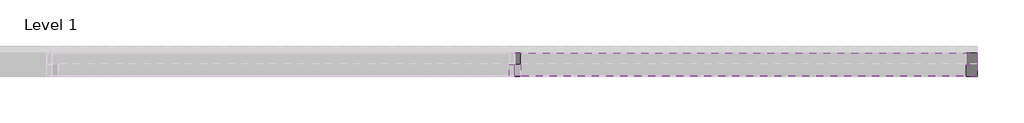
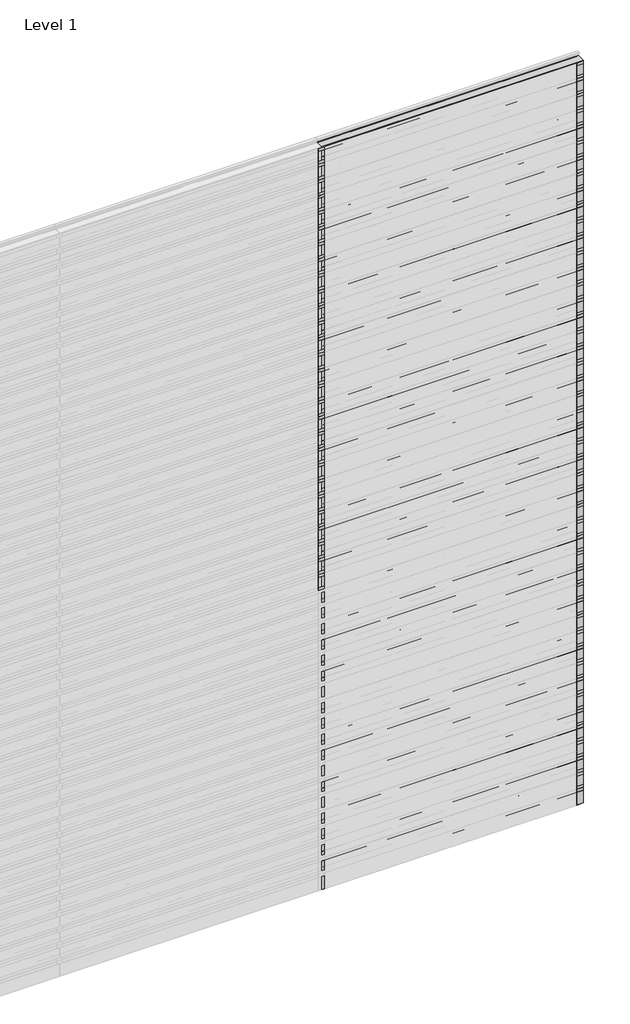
# One storey, part 5 of 5: 75 members, 48 plates.
"""IFC4 building model written with IfcOpenShell, lengths in millimetres."""

import ifcopenshell
import ifcopenshell.guid

model = None  # the IFC model being written
_history = None  # IfcOwnerHistory: only IFC2X3 demands one
_inside = {}  # id of a spatial element -> (the spatial element, [elements in it])
_under = {}  # id of a project, library or spatial element -> (it, [spatial elements below it])
_declared = {}  # id of a project -> (the project, [libraries it declares])
_typed = {}  # id of a type object -> (the type object, [elements of that type])
_made_of = {}  # id of a material, layer set ... -> (it, [elements and type objects made of it])


def new_model(schema):
    """Start an empty IFC model of exactly this schema.

    Asked for "IFC4X3", IfcOpenShell would pick the latest addendum, in which some entities
    have other attributes; the version numbers below select the first issue.
    IFC2X3 requires an IfcOwnerHistory on every rooted entity: one is made here for all.
    """
    global model, _history
    if schema == "IFC4X3":
        model = ifcopenshell.file(schema_version=(4, 3, 0, 0))
    else:
        model = ifcopenshell.file(schema=schema)
    _inside.clear()
    _under.clear()
    _declared.clear()
    _typed.clear()
    _made_of.clear()
    _history = None
    if model.schema == "IFC2X3":
        org = make("IfcOrganization", Name="unknown")
        user = make(
            "IfcPersonAndOrganization",
            ThePerson=make("IfcPerson", FamilyName="unknown"),
            TheOrganization=org,
        )
        app = make(
            "IfcApplication",
            ApplicationDeveloper=org,
            Version="unknown",
            ApplicationFullName="unknown",
            ApplicationIdentifier="unknown",
        )
        _history = make(
            "IfcOwnerHistory",
            OwningUser=user,
            OwningApplication=app,
            ChangeAction="ADDED",
            CreationDate=0,
        )
    return model


def make(cls, **values):
    """One entity of the class cls with the attributes given. An attribute that is None is left unset."""
    return model.create_entity(
        cls, **{name: value for name, value in values.items() if value is not None}
    )


def rooted(cls, **values):
    """An entity with a GlobalId (a new one), such as an element, a storey or a relation."""
    return make(cls, GlobalId=ifcopenshell.guid.new(), OwnerHistory=_history, **values)


def si_unit(unit_type, name, prefix=None):
    """IfcSIUnit, for example si_unit("LENGTHUNIT", "METRE", prefix="MILLI")."""
    return make("IfcSIUnit", UnitType=unit_type, Prefix=prefix, Name=name)


def assignment(units):
    """IfcUnitAssignment: the units of a project."""
    return None if units is None else make("IfcUnitAssignment", Units=units)


def point(xyz):
    """IfcCartesianPoint."""
    return None if xyz is None else make("IfcCartesianPoint", Coordinates=xyz)


def direction(xyz):
    """IfcDirection."""
    return None if xyz is None else make("IfcDirection", DirectionRatios=xyz)


def frame(location, z_axis=None, x_axis=None):
    """IfcAxis2Placement3D, a coordinate frame: its origin and axes. An axis left out is left unset."""
    return make(
        "IfcAxis2Placement3D",
        Location=point(location),
        Axis=direction(z_axis),
        RefDirection=direction(x_axis),
    )


def origin():
    """The frame at (0, 0, 0) with its axes left unset."""
    return frame((0.0, 0.0, 0.0))


def origin_with_axes():
    """The frame at (0, 0, 0) with the z axis (0, 0, 1) and the x axis (1, 0, 0) written out."""
    return frame((0.0, 0.0, 0.0), z_axis=(0.0, 0.0, 1.0), x_axis=(1.0, 0.0, 0.0))


def place(relative_to, where):
    """IfcLocalPlacement: puts the frame where relative to a parent placement (None: the world)."""
    return make(
        "IfcLocalPlacement", PlacementRelTo=relative_to, RelativePlacement=where
    )


def context(
    kind, dimensions, precision=None, world=None, true_north=None, identifier=None
):
    """IfcGeometricRepresentationContext, for example the 3D "Model" context."""
    return make(
        "IfcGeometricRepresentationContext",
        ContextIdentifier=identifier,
        ContextType=kind,
        CoordinateSpaceDimension=dimensions,
        Precision=precision,
        WorldCoordinateSystem=world,
        TrueNorth=true_north,
    )


def project(units=None, contexts=None):
    """IfcProject with its units and contexts."""
    return rooted(
        "IfcProject",
        Name="project",
        RepresentationContexts=contexts,
        UnitsInContext=assignment(units),
    )


def spatial(cls, under=None, at=None, **own):
    """A site, building, storey or space (cls), placed at a placement, below another one or the project."""
    s = rooted(cls, ObjectPlacement=at, **own)
    if under is not None:
        _under.setdefault(under.id(), (under, []))[1].append(s)
    return s


def polyline(points):
    """IfcPolyline through the points."""
    return make("IfcPolyline", Points=[point(p) for p in points])


def outline(outer, holes=None, kind="AREA"):
    """IfcArbitraryClosedProfileDef: a profile drawn as a closed curve; with holes, ...WithVoids."""
    if holes is None:
        return make("IfcArbitraryClosedProfileDef", ProfileType=kind, OuterCurve=outer)
    return make(
        "IfcArbitraryProfileDefWithVoids",
        ProfileType=kind,
        OuterCurve=outer,
        InnerCurves=holes,
    )


def extrude(swept, where, along, depth):
    """IfcExtrudedAreaSolid: the profile swept, set in the frame where, extruded along a direction by depth."""
    return make(
        "IfcExtrudedAreaSolid",
        SweptArea=swept,
        Position=where,
        ExtrudedDirection=direction(along),
        Depth=depth,
    )


def shape(context_of_items, identifier, shape_type, items):
    """IfcShapeRepresentation: the items that make up one representation, for example the "Body"."""
    return make(
        "IfcShapeRepresentation",
        ContextOfItems=context_of_items,
        RepresentationIdentifier=identifier,
        RepresentationType=shape_type,
        Items=items,
    )


def source(mapping_origin, context_of_items, identifier, shape_type, items):
    """IfcRepresentationMap: a shape defined once, which mapped items show again and again."""
    return make(
        "IfcRepresentationMap",
        MappingOrigin=mapping_origin,
        MappedRepresentation=shape(context_of_items, identifier, shape_type, items),
    )


def transform(
    local_origin,
    x_axis=None,
    y_axis=None,
    z_axis=None,
    scale=None,
    scale2=None,
    scale3=None,
    uniform=True,
):
    """IfcCartesianTransformationOperator3D, or its non-uniform kind. x_axis, y_axis, z_axis: its Axis1, 2, 3."""
    if uniform:
        return make(
            "IfcCartesianTransformationOperator3D",
            Axis1=direction(x_axis),
            Axis2=direction(y_axis),
            LocalOrigin=point(local_origin),
            Scale=scale,
            Axis3=direction(z_axis),
        )
    return make(
        "IfcCartesianTransformationOperator3DnonUniform",
        Axis1=direction(x_axis),
        Axis2=direction(y_axis),
        LocalOrigin=point(local_origin),
        Scale=scale,
        Axis3=direction(z_axis),
        Scale2=scale2,
        Scale3=scale3,
    )


def mapped(mapping_source, mapping_target):
    """IfcMappedItem: shows the shape of a source again, moved by a transform."""
    return make(
        "IfcMappedItem", MappingSource=mapping_source, MappingTarget=mapping_target
    )


def made_of(thing, what):
    """Note that an element or type object is made of a material, layer set ...; save() writes the relation."""
    if what is not None:
        _made_of.setdefault(what.id(), (what, []))[1].append(thing)
    return thing


def element(
    cls,
    number,
    at=None,
    inside=None,
    cuts=None,
    type_object=None,
    material=None,
    context=None,
    identifier="Body",
    shape_type=None,
    held_by="IfcProductDefinitionShape",
    body=None,
    shapes=None,
    **own,
):
    """One element of the class cls, such as IfcWall. Its Tag is "e" and its number.

    at: its placement. inside: the storey or other place that contains it. cuts: it is an
    opening in that element (IfcRelVoidsElement). A single representation is given by context,
    identifier, shape_type and body (its items); several are given by shapes. held_by: the class
    of the entity that holds the representations. save() writes the other relations.
    """
    e = rooted(cls, Tag="e%d" % number, ObjectPlacement=at, **own)
    if body is not None:
        shapes = [shape(context, identifier, shape_type, body)]
    if shapes is not None:
        e.Representation = make(held_by, Representations=shapes)
    if inside is not None:
        _inside.setdefault(inside.id(), (inside, []))[1].append(e)
    if cuts is not None:
        rooted(
            "IfcRelVoidsElement", RelatingBuildingElement=cuts, RelatedOpeningElement=e
        )
    if type_object is not None:
        _typed.setdefault(type_object.id(), (type_object, []))[1].append(e)
    return made_of(e, material)


def aggregate(whole, parts):
    """IfcRelAggregates: a whole, such as a stair, and the parts it consists of."""
    return rooted("IfcRelAggregates", RelatingObject=whole, RelatedObjects=parts)


def save(model, path):
    """Write the relations noted so far, then the file.

    IfcRelAggregates (storeys below a building ...), IfcRelContainedInSpatialStructure (elements
    in a storey), IfcRelDefinesByType, IfcRelAssociatesMaterial and IfcRelDeclares: one each for
    every whole, place, type object, material and project.
    """
    for whole, parts in _under.values():
        aggregate(whole, parts)
    for where, things in _inside.values():
        rooted(
            "IfcRelContainedInSpatialStructure",
            RelatedElements=things,
            RelatingStructure=where,
        )
    for kind, things in _typed.values():
        rooted("IfcRelDefinesByType", RelatedObjects=things, RelatingType=kind)
    for what, things in _made_of.values():
        rooted("IfcRelAssociatesMaterial", RelatedObjects=things, RelatingMaterial=what)
    for by, libraries in _declared.values():
        rooted("IfcRelDeclares", RelatingContext=by, RelatedDefinitions=libraries)
    model.write(path)


def rectangular_mullion_172e3795(model_context):
    return source(origin(), model_context, "Body", "SweptSolid", [
        extrude(outline(polyline([(25.0, 1.0), (25.0, -49.0), (-25.0, -49.0), (-25.0, 1.0), (25.0, 1.0)])), frame((0.0, 0.0, -127.5), z_axis=(0.0, 0.0, 1.0), x_axis=(1.0, 0.0, 0.0)), (0.0, 0.0, 1.0), 127.5),
    ])


def rectangular_mullion_5ead61f5(model_context):
    return source(origin(), model_context, "Body", "SweptSolid", [
        extrude(outline(polyline([(-50.0, 1.0), (0.0, 1.0), (0.0, -49.0), (-50.0, -49.0), (-50.0, 1.0)])), frame((0.0, 0.0, -127.5), z_axis=(0.0, 0.0, 1.0), x_axis=(1.0, 0.0, 0.0)), (0.0, 0.0, 1.0), 127.5),
    ])


def empty_system_panel_empty_ea596e22(model_context):
    return source(origin(), model_context, "Body", "SweptSolid", [
        extrude(outline(polyline([(1000.0, -50.0), (-1000.0, -50.0), (-1000.0, 50.0), (1000.0, 50.0), (1000.0, -50.0)])), origin_with_axes(), (0.0, 0.0, 1.0), 103.4583694),
    ])


def empty_system_panel_empty_a5cbaad0(model_context):
    return source(origin(), model_context, "Body", "SweptSolid", [
        extrude(outline(polyline([(1000.0, -50.0), (-1000.0, -50.0), (-1000.0, 50.0), (1000.0, 50.0), (1000.0, -50.0)])), origin_with_axes(), (0.0, 0.0, 1.0), 79.4167389),
    ])


def empty_system_panel_empty_c620d78e(model_context):
    return source(origin(), model_context, "Body", "SweptSolid", [
        extrude(outline(polyline([(1000.0, -50.0), (-1000.0, -50.0), (-1000.0, 50.0), (1000.0, 50.0), (1000.0, -50.0)])), origin_with_axes(), (0.0, 0.0, 1.0), 7.5),
    ])


model = new_model("IFC4")

# Units and contexts
model_context = context("Model", 3, world=origin())
ifc_project = project(units=[si_unit("LENGTHUNIT", "METRE", prefix="MILLI")], contexts=[model_context])

# Site, building, storey
site = spatial("IfcSite", under=ifc_project)
building = spatial("IfcBuilding", under=site)
storey = spatial("IfcBuildingStorey", under=building, Name="Level 1", Elevation=0.0)

# Members
placement = place(None, origin())
rectangular_mullion_shape = rectangular_mullion_172e3795(model_context)
element("IfcMember", 1, ObjectType="Rectangular Mullion : RSen_21_CWM_support profile 50x50_gen_duco projects", at=placement, inside=storey, context=model_context, shape_type="MappedRepresentation", body=[
    mapped(rectangular_mullion_shape, transform((4000.0, 3000.0, 2422.5), x_axis=(-1.0, 0.0, 0.0), y_axis=(0.0, 1.0, 0.0), z_axis=(0.0, 0.0, -1.0))),
])
element("IfcMember", 2, ObjectType="Rectangular Mullion : RSen_21_CWM_support profile 50x50_gen_duco projects", at=placement, inside=storey, context=model_context, shape_type="MappedRepresentation", body=[
    mapped(rectangular_mullion_shape, transform((4000.0, 3000.0, 2550.0), x_axis=(-1.0, 0.0, 0.0), y_axis=(0.0, 1.0, 0.0), z_axis=(0.0, 0.0, -1.0))),
])
element("IfcMember", 3, ObjectType="Rectangular Mullion : RSen_21_CWM_support profile 50x50_gen_duco projects", at=placement, inside=storey, context=model_context, shape_type="MappedRepresentation", body=[
    mapped(rectangular_mullion_shape, transform((4000.0, 3000.0, 2677.5), x_axis=(-1.0, 0.0, 0.0), y_axis=(0.0, 1.0, 0.0), z_axis=(0.0, 0.0, -1.0))),
])
element("IfcMember", 4, ObjectType="Rectangular Mullion : RSen_21_CWM_support profile 50x50_gen_duco projects", at=placement, inside=storey, context=model_context, shape_type="MappedRepresentation", body=[
    mapped(rectangular_mullion_shape, transform((4000.0, 3000.0, 2805.0), x_axis=(-1.0, 0.0, 0.0), y_axis=(0.0, 1.0, 0.0), z_axis=(0.0, 0.0, -1.0))),
])
element("IfcMember", 5, ObjectType="Rectangular Mullion : RSen_21_CWM_support profile 50x50_gen_duco projects", at=placement, inside=storey, context=model_context, shape_type="MappedRepresentation", body=[
    mapped(rectangular_mullion_shape, transform((4000.0, 3000.0, 2932.5), x_axis=(-1.0, 0.0, 0.0), y_axis=(0.0, 1.0, 0.0), z_axis=(0.0, 0.0, -1.0))),
])
element("IfcMember", 6, ObjectType="Rectangular Mullion : RSen_21_CWM_support profile 50x50_gen_duco projects", at=placement, inside=storey, context=model_context, shape_type="MappedRepresentation", body=[
    mapped(rectangular_mullion_shape, transform((4000.0, 3000.0, 3060.0), x_axis=(-1.0, 0.0, 0.0), y_axis=(0.0, 1.0, 0.0), z_axis=(0.0, 0.0, -1.0))),
])
element("IfcMember", 7, ObjectType="Rectangular Mullion : RSen_21_CWM_support profile 50x50_gen_duco projects", at=placement, inside=storey, context=model_context, shape_type="MappedRepresentation", body=[
    mapped(rectangular_mullion_shape, transform((4000.0, 3000.0, 3187.5), x_axis=(-1.0, 0.0, 0.0), y_axis=(0.0, 1.0, 0.0), z_axis=(0.0, 0.0, -1.0))),
])
element("IfcMember", 8, ObjectType="Rectangular Mullion : RSen_21_CWM_support profile 50x50_gen_duco projects", at=placement, inside=storey, context=model_context, shape_type="MappedRepresentation", body=[
    mapped(rectangular_mullion_shape, transform((4000.0, 3000.0, 3315.0), x_axis=(-1.0, 0.0, 0.0), y_axis=(0.0, 1.0, 0.0), z_axis=(0.0, 0.0, -1.0))),
])
element("IfcMember", 9, ObjectType="Rectangular Mullion : RSen_21_CWM_support profile 50x50_gen_duco projects", at=placement, inside=storey, context=model_context, shape_type="MappedRepresentation", body=[
    mapped(rectangular_mullion_shape, transform((4000.0, 3000.0, 3442.5), x_axis=(-1.0, 0.0, 0.0), y_axis=(0.0, 1.0, 0.0), z_axis=(0.0, 0.0, -1.0))),
])
element("IfcMember", 10, ObjectType="Rectangular Mullion : RSen_21_CWM_support profile 50x50_gen_duco projects", at=placement, inside=storey, context=model_context, shape_type="MappedRepresentation", body=[
    mapped(rectangular_mullion_shape, transform((4000.0, 3000.0, 3570.0), x_axis=(-1.0, 0.0, 0.0), y_axis=(0.0, 1.0, 0.0), z_axis=(0.0, 0.0, -1.0))),
])
element("IfcMember", 11, ObjectType="Rectangular Mullion : RSen_21_CWM_support profile 50x50_gen_duco projects", at=placement, inside=storey, context=model_context, shape_type="MappedRepresentation", body=[
    mapped(rectangular_mullion_shape, transform((4000.0, 3000.0, 3697.5), x_axis=(-1.0, 0.0, 0.0), y_axis=(0.0, 1.0, 0.0), z_axis=(0.0, 0.0, -1.0))),
])
element("IfcMember", 12, ObjectType="Rectangular Mullion : RSen_21_CWM_support profile 50x50_gen_duco projects", at=placement, inside=storey, context=model_context, shape_type="MappedRepresentation", body=[
    mapped(rectangular_mullion_shape, transform((4000.0, 3000.0, 3825.0), x_axis=(-1.0, 0.0, 0.0), y_axis=(0.0, 1.0, 0.0), z_axis=(0.0, 0.0, -1.0))),
])
element("IfcMember", 13, ObjectType="Rectangular Mullion : RSen_21_CWM_support profile 50x50_gen_duco projects", at=placement, inside=storey, context=model_context, shape_type="MappedRepresentation", body=[
    mapped(rectangular_mullion_shape, transform((4000.0, 3000.0, 3952.5), x_axis=(-1.0, 0.0, 0.0), y_axis=(0.0, 1.0, 0.0), z_axis=(0.0, 0.0, -1.0))),
])
element("IfcMember", 14, ObjectType="Rectangular Mullion : RSen_21_CWM_support profile 50x50_gen_duco projects", at=placement, inside=storey, context=model_context, shape_type="MappedRepresentation", body=[
    mapped(rectangular_mullion_shape, transform((4000.0, 3000.0, 4080.0), x_axis=(-1.0, 0.0, 0.0), y_axis=(0.0, 1.0, 0.0), z_axis=(0.0, 0.0, -1.0))),
])
element("IfcMember", 15, ObjectType="Rectangular Mullion : RSen_21_CWM_support profile 50x50_gen_duco projects", at=placement, inside=storey, context=model_context, shape_type="MappedRepresentation", body=[
    mapped(rectangular_mullion_shape, transform((4000.0, 3000.0, 4207.5), x_axis=(-1.0, 0.0, 0.0), y_axis=(0.0, 1.0, 0.0), z_axis=(0.0, 0.0, -1.0))),
])
element("IfcMember", 16, ObjectType="Rectangular Mullion : RSen_21_CWM_support profile 50x50_gen_duco projects", at=placement, inside=storey, context=model_context, shape_type="MappedRepresentation", body=[
    mapped(rectangular_mullion_shape, transform((4000.0, 3000.0, 4335.0), x_axis=(-1.0, 0.0, 0.0), y_axis=(0.0, 1.0, 0.0), z_axis=(0.0, 0.0, -1.0))),
])
element("IfcMember", 17, ObjectType="Rectangular Mullion : RSen_21_CWM_support profile 50x50_gen_duco projects", at=placement, inside=storey, context=model_context, shape_type="MappedRepresentation", body=[
    mapped(rectangular_mullion_shape, transform((4000.0, 3000.0, 4462.5), x_axis=(-1.0, 0.0, 0.0), y_axis=(0.0, 1.0, 0.0), z_axis=(0.0, 0.0, -1.0))),
])
element("IfcMember", 18, ObjectType="Rectangular Mullion : RSen_21_CWM_support profile 50x50_gen_duco projects", at=placement, inside=storey, context=model_context, shape_type="MappedRepresentation", body=[
    mapped(rectangular_mullion_shape, transform((4000.0, 3000.0, 4590.0), x_axis=(-1.0, 0.0, 0.0), y_axis=(0.0, 1.0, 0.0), z_axis=(0.0, 0.0, -1.0))),
])
element("IfcMember", 19, ObjectType="Rectangular Mullion : RSen_21_CWM_support profile 50x50_gen_duco projects", at=placement, inside=storey, context=model_context, shape_type="MappedRepresentation", body=[
    mapped(rectangular_mullion_shape, transform((4000.0, 3000.0, 4717.5), x_axis=(-1.0, 0.0, 0.0), y_axis=(0.0, 1.0, 0.0), z_axis=(0.0, 0.0, -1.0))),
])
element("IfcMember", 20, ObjectType="Rectangular Mullion : RSen_21_CWM_support profile 50x50_gen_duco projects", at=placement, inside=storey, context=model_context, shape_type="MappedRepresentation", body=[
    mapped(rectangular_mullion_shape, transform((4000.0, 3000.0, 4845.0), x_axis=(-1.0, 0.0, 0.0), y_axis=(0.0, 1.0, 0.0), z_axis=(0.0, 0.0, -1.0))),
])
element("IfcMember", 21, ObjectType="Rectangular Mullion : RSen_21_CWM_support profile 50x50_gen_duco projects", at=placement, inside=storey, context=model_context, shape_type="MappedRepresentation", body=[
    mapped(rectangular_mullion_shape, transform((4000.0, 3000.0, 4972.5), x_axis=(-1.0, 0.0, 0.0), y_axis=(0.0, 1.0, 0.0), z_axis=(0.0, 0.0, -1.0))),
])
element("IfcMember", 22, ObjectType="Rectangular Mullion : RSen_21_CWM_support profile 50x50_gen_duco projects", at=placement, inside=storey, context=model_context, shape_type="MappedRepresentation", body=[
    mapped(rectangular_mullion_shape, transform((4000.0, 3000.0, 5100.0), x_axis=(-1.0, 0.0, 0.0), y_axis=(0.0, 1.0, 0.0), z_axis=(0.0, 0.0, -1.0))),
])
element("IfcMember", 23, ObjectType="Rectangular Mullion : RSen_21_CWM_support profile 50x50_gen_duco projects", at=placement, inside=storey, context=model_context, shape_type="MappedRepresentation", body=[
    mapped(rectangular_mullion_shape, transform((4000.0, 3000.0, 5227.5), x_axis=(-1.0, 0.0, 0.0), y_axis=(0.0, 1.0, 0.0), z_axis=(0.0, 0.0, -1.0))),
])
element("IfcMember", 24, ObjectType="Rectangular Mullion : RSen_21_CWM_support profile 50x50_gen_duco projects", at=placement, inside=storey, context=model_context, shape_type="MappedRepresentation", body=[
    mapped(rectangular_mullion_shape, transform((4000.0, 3000.0, 5355.0), x_axis=(-1.0, 0.0, 0.0), y_axis=(0.0, 1.0, 0.0), z_axis=(0.0, 0.0, -1.0))),
])
element("IfcMember", 25, ObjectType="Rectangular Mullion : RSen_21_CWM_support profile 50x50_gen_duco projects", at=placement, inside=storey, context=model_context, shape_type="MappedRepresentation", body=[
    mapped(rectangular_mullion_shape, transform((4000.0, 3000.0, 5482.5), x_axis=(-1.0, 0.0, 0.0), y_axis=(0.0, 1.0, 0.0), z_axis=(0.0, 0.0, -1.0))),
])
element("IfcMember", 26, ObjectType="Rectangular Mullion : RSen_21_CWM_support profile 50x50_gen_duco projects", at=placement, inside=storey, context=model_context, shape_type="MappedRepresentation", body=[
    mapped(rectangular_mullion_shape, transform((4000.0, 3000.0, 5610.0), x_axis=(-1.0, 0.0, 0.0), y_axis=(0.0, 1.0, 0.0), z_axis=(0.0, 0.0, -1.0))),
])
element("IfcMember", 27, ObjectType="Rectangular Mullion : RSen_21_CWM_support profile 50x50_gen_duco projects", at=placement, inside=storey, context=model_context, shape_type="MappedRepresentation", body=[
    mapped(rectangular_mullion_shape, transform((4000.0, 3000.0, 5737.5), x_axis=(-1.0, 0.0, 0.0), y_axis=(0.0, 1.0, 0.0), z_axis=(0.0, 0.0, -1.0))),
])
element("IfcMember", 28, ObjectType="Rectangular Mullion : RSen_21_CWM_support profile 50x50_gen_duco projects", at=placement, inside=storey, context=model_context, shape_type="MappedRepresentation", body=[
    mapped(rectangular_mullion_shape, transform((4000.0, 3000.0, 5865.0), x_axis=(-1.0, 0.0, 0.0), y_axis=(0.0, 1.0, 0.0), z_axis=(0.0, 0.0, -1.0))),
])
rectangular_mullion_2_shape = rectangular_mullion_5ead61f5(model_context)
element("IfcMember", 29, ObjectType="Rectangular Mullion : RSen_21_CWM_support profile 50x50 - right_gen_duco projects", at=placement, inside=storey, context=model_context, shape_type="MappedRepresentation", body=[
    mapped(rectangular_mullion_2_shape, transform((6000.0, 3000.0, 127.5), x_axis=(1.0, 0.0, 0.0), y_axis=(0.0, 1.0, 0.0), z_axis=(0.0, 0.0, 1.0))),
])
element("IfcMember", 30, ObjectType="Rectangular Mullion : RSen_21_CWM_support profile 50x50 - right_gen_duco projects", at=placement, inside=storey, context=model_context, shape_type="MappedRepresentation", body=[
    mapped(rectangular_mullion_2_shape, transform((6000.0, 3000.0, 255.0), x_axis=(1.0, 0.0, 0.0), y_axis=(0.0, 1.0, 0.0), z_axis=(0.0, 0.0, 1.0))),
])
element("IfcMember", 31, ObjectType="Rectangular Mullion : RSen_21_CWM_support profile 50x50 - right_gen_duco projects", at=placement, inside=storey, context=model_context, shape_type="MappedRepresentation", body=[
    mapped(rectangular_mullion_2_shape, transform((6000.0, 3000.0, 382.5), x_axis=(1.0, 0.0, 0.0), y_axis=(0.0, 1.0, 0.0), z_axis=(0.0, 0.0, 1.0))),
])
element("IfcMember", 32, ObjectType="Rectangular Mullion : RSen_21_CWM_support profile 50x50 - right_gen_duco projects", at=placement, inside=storey, context=model_context, shape_type="MappedRepresentation", body=[
    mapped(rectangular_mullion_2_shape, transform((6000.0, 3000.0, 510.0), x_axis=(1.0, 0.0, 0.0), y_axis=(0.0, 1.0, 0.0), z_axis=(0.0, 0.0, 1.0))),
])
element("IfcMember", 33, ObjectType="Rectangular Mullion : RSen_21_CWM_support profile 50x50 - right_gen_duco projects", at=placement, inside=storey, context=model_context, shape_type="MappedRepresentation", body=[
    mapped(rectangular_mullion_2_shape, transform((6000.0, 3000.0, 637.5), x_axis=(1.0, 0.0, 0.0), y_axis=(0.0, 1.0, 0.0), z_axis=(0.0, 0.0, 1.0))),
])
element("IfcMember", 34, ObjectType="Rectangular Mullion : RSen_21_CWM_support profile 50x50 - right_gen_duco projects", at=placement, inside=storey, context=model_context, shape_type="MappedRepresentation", body=[
    mapped(rectangular_mullion_2_shape, transform((6000.0, 3000.0, 765.0), x_axis=(1.0, 0.0, 0.0), y_axis=(0.0, 1.0, 0.0), z_axis=(0.0, 0.0, 1.0))),
])
element("IfcMember", 35, ObjectType="Rectangular Mullion : RSen_21_CWM_support profile 50x50 - right_gen_duco projects", at=placement, inside=storey, context=model_context, shape_type="MappedRepresentation", body=[
    mapped(rectangular_mullion_2_shape, transform((6000.0, 3000.0, 892.5), x_axis=(1.0, 0.0, 0.0), y_axis=(0.0, 1.0, 0.0), z_axis=(0.0, 0.0, 1.0))),
])
element("IfcMember", 36, ObjectType="Rectangular Mullion : RSen_21_CWM_support profile 50x50 - right_gen_duco projects", at=placement, inside=storey, context=model_context, shape_type="MappedRepresentation", body=[
    mapped(rectangular_mullion_2_shape, transform((6000.0, 3000.0, 1020.0), x_axis=(1.0, 0.0, 0.0), y_axis=(0.0, 1.0, 0.0), z_axis=(0.0, 0.0, 1.0))),
])
element("IfcMember", 37, ObjectType="Rectangular Mullion : RSen_21_CWM_support profile 50x50 - right_gen_duco projects", at=placement, inside=storey, context=model_context, shape_type="MappedRepresentation", body=[
    mapped(rectangular_mullion_2_shape, transform((6000.0, 3000.0, 1147.5), x_axis=(1.0, 0.0, 0.0), y_axis=(0.0, 1.0, 0.0), z_axis=(0.0, 0.0, 1.0))),
])
element("IfcMember", 38, ObjectType="Rectangular Mullion : RSen_21_CWM_support profile 50x50 - right_gen_duco projects", at=placement, inside=storey, context=model_context, shape_type="MappedRepresentation", body=[
    mapped(rectangular_mullion_2_shape, transform((6000.0, 3000.0, 1275.0), x_axis=(1.0, 0.0, 0.0), y_axis=(0.0, 1.0, 0.0), z_axis=(0.0, 0.0, 1.0))),
])
element("IfcMember", 39, ObjectType="Rectangular Mullion : RSen_21_CWM_support profile 50x50 - right_gen_duco projects", at=placement, inside=storey, context=model_context, shape_type="MappedRepresentation", body=[
    mapped(rectangular_mullion_2_shape, transform((6000.0, 3000.0, 1402.5), x_axis=(1.0, 0.0, 0.0), y_axis=(0.0, 1.0, 0.0), z_axis=(0.0, 0.0, 1.0))),
])
element("IfcMember", 40, ObjectType="Rectangular Mullion : RSen_21_CWM_support profile 50x50 - right_gen_duco projects", at=placement, inside=storey, context=model_context, shape_type="MappedRepresentation", body=[
    mapped(rectangular_mullion_2_shape, transform((6000.0, 3000.0, 1530.0), x_axis=(1.0, 0.0, 0.0), y_axis=(0.0, 1.0, 0.0), z_axis=(0.0, 0.0, 1.0))),
])
element("IfcMember", 41, ObjectType="Rectangular Mullion : RSen_21_CWM_support profile 50x50 - right_gen_duco projects", at=placement, inside=storey, context=model_context, shape_type="MappedRepresentation", body=[
    mapped(rectangular_mullion_2_shape, transform((6000.0, 3000.0, 1657.5), x_axis=(1.0, 0.0, 0.0), y_axis=(0.0, 1.0, 0.0), z_axis=(0.0, 0.0, 1.0))),
])
element("IfcMember", 42, ObjectType="Rectangular Mullion : RSen_21_CWM_support profile 50x50 - right_gen_duco projects", at=placement, inside=storey, context=model_context, shape_type="MappedRepresentation", body=[
    mapped(rectangular_mullion_2_shape, transform((6000.0, 3000.0, 1785.0), x_axis=(1.0, 0.0, 0.0), y_axis=(0.0, 1.0, 0.0), z_axis=(0.0, 0.0, 1.0))),
])
element("IfcMember", 43, ObjectType="Rectangular Mullion : RSen_21_CWM_support profile 50x50 - right_gen_duco projects", at=placement, inside=storey, context=model_context, shape_type="MappedRepresentation", body=[
    mapped(rectangular_mullion_2_shape, transform((6000.0, 3000.0, 1912.5), x_axis=(1.0, 0.0, 0.0), y_axis=(0.0, 1.0, 0.0), z_axis=(0.0, 0.0, 1.0))),
])
element("IfcMember", 44, ObjectType="Rectangular Mullion : RSen_21_CWM_support profile 50x50 - right_gen_duco projects", at=placement, inside=storey, context=model_context, shape_type="MappedRepresentation", body=[
    mapped(rectangular_mullion_2_shape, transform((6000.0, 3000.0, 2040.0), x_axis=(1.0, 0.0, 0.0), y_axis=(0.0, 1.0, 0.0), z_axis=(0.0, 0.0, 1.0))),
])
element("IfcMember", 45, ObjectType="Rectangular Mullion : RSen_21_CWM_support profile 50x50 - right_gen_duco projects", at=placement, inside=storey, context=model_context, shape_type="MappedRepresentation", body=[
    mapped(rectangular_mullion_2_shape, transform((6000.0, 3000.0, 2167.5), x_axis=(1.0, 0.0, 0.0), y_axis=(0.0, 1.0, 0.0), z_axis=(0.0, 0.0, 1.0))),
])
element("IfcMember", 46, ObjectType="Rectangular Mullion : RSen_21_CWM_support profile 50x50 - right_gen_duco projects", at=placement, inside=storey, context=model_context, shape_type="MappedRepresentation", body=[
    mapped(rectangular_mullion_2_shape, transform((6000.0, 3000.0, 2295.0), x_axis=(1.0, 0.0, 0.0), y_axis=(0.0, 1.0, 0.0), z_axis=(0.0, 0.0, 1.0))),
])
element("IfcMember", 47, ObjectType="Rectangular Mullion : RSen_21_CWM_support profile 50x50 - right_gen_duco projects", at=placement, inside=storey, context=model_context, shape_type="MappedRepresentation", body=[
    mapped(rectangular_mullion_2_shape, transform((6000.0, 3000.0, 2422.5), x_axis=(1.0, 0.0, 0.0), y_axis=(0.0, 1.0, 0.0), z_axis=(0.0, 0.0, 1.0))),
])
element("IfcMember", 48, ObjectType="Rectangular Mullion : RSen_21_CWM_support profile 50x50 - right_gen_duco projects", at=placement, inside=storey, context=model_context, shape_type="MappedRepresentation", body=[
    mapped(rectangular_mullion_2_shape, transform((6000.0, 3000.0, 2550.0), x_axis=(1.0, 0.0, 0.0), y_axis=(0.0, 1.0, 0.0), z_axis=(0.0, 0.0, 1.0))),
])
element("IfcMember", 49, ObjectType="Rectangular Mullion : RSen_21_CWM_support profile 50x50 - right_gen_duco projects", at=placement, inside=storey, context=model_context, shape_type="MappedRepresentation", body=[
    mapped(rectangular_mullion_2_shape, transform((6000.0, 3000.0, 2677.5), x_axis=(1.0, 0.0, 0.0), y_axis=(0.0, 1.0, 0.0), z_axis=(0.0, 0.0, 1.0))),
])
element("IfcMember", 50, ObjectType="Rectangular Mullion : RSen_21_CWM_support profile 50x50 - right_gen_duco projects", at=placement, inside=storey, context=model_context, shape_type="MappedRepresentation", body=[
    mapped(rectangular_mullion_2_shape, transform((6000.0, 3000.0, 2805.0), x_axis=(1.0, 0.0, 0.0), y_axis=(0.0, 1.0, 0.0), z_axis=(0.0, 0.0, 1.0))),
])
element("IfcMember", 51, ObjectType="Rectangular Mullion : RSen_21_CWM_support profile 50x50 - right_gen_duco projects", at=placement, inside=storey, context=model_context, shape_type="MappedRepresentation", body=[
    mapped(rectangular_mullion_2_shape, transform((6000.0, 3000.0, 2932.5), x_axis=(1.0, 0.0, 0.0), y_axis=(0.0, 1.0, 0.0), z_axis=(0.0, 0.0, 1.0))),
])
element("IfcMember", 52, ObjectType="Rectangular Mullion : RSen_21_CWM_support profile 50x50 - right_gen_duco projects", at=placement, inside=storey, context=model_context, shape_type="MappedRepresentation", body=[
    mapped(rectangular_mullion_2_shape, transform((6000.0, 3000.0, 3060.0), x_axis=(1.0, 0.0, 0.0), y_axis=(0.0, 1.0, 0.0), z_axis=(0.0, 0.0, 1.0))),
])
element("IfcMember", 53, ObjectType="Rectangular Mullion : RSen_21_CWM_support profile 50x50 - right_gen_duco projects", at=placement, inside=storey, context=model_context, shape_type="MappedRepresentation", body=[
    mapped(rectangular_mullion_2_shape, transform((6000.0, 3000.0, 3187.5), x_axis=(1.0, 0.0, 0.0), y_axis=(0.0, 1.0, 0.0), z_axis=(0.0, 0.0, 1.0))),
])
element("IfcMember", 54, ObjectType="Rectangular Mullion : RSen_21_CWM_support profile 50x50 - right_gen_duco projects", at=placement, inside=storey, context=model_context, shape_type="MappedRepresentation", body=[
    mapped(rectangular_mullion_2_shape, transform((6000.0, 3000.0, 3315.0), x_axis=(1.0, 0.0, 0.0), y_axis=(0.0, 1.0, 0.0), z_axis=(0.0, 0.0, 1.0))),
])
element("IfcMember", 55, ObjectType="Rectangular Mullion : RSen_21_CWM_support profile 50x50 - right_gen_duco projects", at=placement, inside=storey, context=model_context, shape_type="MappedRepresentation", body=[
    mapped(rectangular_mullion_2_shape, transform((6000.0, 3000.0, 3442.5), x_axis=(1.0, 0.0, 0.0), y_axis=(0.0, 1.0, 0.0), z_axis=(0.0, 0.0, 1.0))),
])
element("IfcMember", 56, ObjectType="Rectangular Mullion : RSen_21_CWM_support profile 50x50 - right_gen_duco projects", at=placement, inside=storey, context=model_context, shape_type="MappedRepresentation", body=[
    mapped(rectangular_mullion_2_shape, transform((6000.0, 3000.0, 3570.0), x_axis=(1.0, 0.0, 0.0), y_axis=(0.0, 1.0, 0.0), z_axis=(0.0, 0.0, 1.0))),
])
element("IfcMember", 57, ObjectType="Rectangular Mullion : RSen_21_CWM_support profile 50x50 - right_gen_duco projects", at=placement, inside=storey, context=model_context, shape_type="MappedRepresentation", body=[
    mapped(rectangular_mullion_2_shape, transform((6000.0, 3000.0, 3697.5), x_axis=(1.0, 0.0, 0.0), y_axis=(0.0, 1.0, 0.0), z_axis=(0.0, 0.0, 1.0))),
])
element("IfcMember", 58, ObjectType="Rectangular Mullion : RSen_21_CWM_support profile 50x50 - right_gen_duco projects", at=placement, inside=storey, context=model_context, shape_type="MappedRepresentation", body=[
    mapped(rectangular_mullion_2_shape, transform((6000.0, 3000.0, 3825.0), x_axis=(1.0, 0.0, 0.0), y_axis=(0.0, 1.0, 0.0), z_axis=(0.0, 0.0, 1.0))),
])
element("IfcMember", 59, ObjectType="Rectangular Mullion : RSen_21_CWM_support profile 50x50 - right_gen_duco projects", at=placement, inside=storey, context=model_context, shape_type="MappedRepresentation", body=[
    mapped(rectangular_mullion_2_shape, transform((6000.0, 3000.0, 3952.5), x_axis=(1.0, 0.0, 0.0), y_axis=(0.0, 1.0, 0.0), z_axis=(0.0, 0.0, 1.0))),
])
element("IfcMember", 60, ObjectType="Rectangular Mullion : RSen_21_CWM_support profile 50x50 - right_gen_duco projects", at=placement, inside=storey, context=model_context, shape_type="MappedRepresentation", body=[
    mapped(rectangular_mullion_2_shape, transform((6000.0, 3000.0, 4080.0), x_axis=(1.0, 0.0, 0.0), y_axis=(0.0, 1.0, 0.0), z_axis=(0.0, 0.0, 1.0))),
])
element("IfcMember", 61, ObjectType="Rectangular Mullion : RSen_21_CWM_support profile 50x50 - right_gen_duco projects", at=placement, inside=storey, context=model_context, shape_type="MappedRepresentation", body=[
    mapped(rectangular_mullion_2_shape, transform((6000.0, 3000.0, 4207.5), x_axis=(1.0, 0.0, 0.0), y_axis=(0.0, 1.0, 0.0), z_axis=(0.0, 0.0, 1.0))),
])
element("IfcMember", 62, ObjectType="Rectangular Mullion : RSen_21_CWM_support profile 50x50 - right_gen_duco projects", at=placement, inside=storey, context=model_context, shape_type="MappedRepresentation", body=[
    mapped(rectangular_mullion_2_shape, transform((6000.0, 3000.0, 4335.0), x_axis=(1.0, 0.0, 0.0), y_axis=(0.0, 1.0, 0.0), z_axis=(0.0, 0.0, 1.0))),
])
element("IfcMember", 63, ObjectType="Rectangular Mullion : RSen_21_CWM_support profile 50x50 - right_gen_duco projects", at=placement, inside=storey, context=model_context, shape_type="MappedRepresentation", body=[
    mapped(rectangular_mullion_2_shape, transform((6000.0, 3000.0, 4462.5), x_axis=(1.0, 0.0, 0.0), y_axis=(0.0, 1.0, 0.0), z_axis=(0.0, 0.0, 1.0))),
])
element("IfcMember", 64, ObjectType="Rectangular Mullion : RSen_21_CWM_support profile 50x50 - right_gen_duco projects", at=placement, inside=storey, context=model_context, shape_type="MappedRepresentation", body=[
    mapped(rectangular_mullion_2_shape, transform((6000.0, 3000.0, 4590.0), x_axis=(1.0, 0.0, 0.0), y_axis=(0.0, 1.0, 0.0), z_axis=(0.0, 0.0, 1.0))),
])
element("IfcMember", 65, ObjectType="Rectangular Mullion : RSen_21_CWM_support profile 50x50 - right_gen_duco projects", at=placement, inside=storey, context=model_context, shape_type="MappedRepresentation", body=[
    mapped(rectangular_mullion_2_shape, transform((6000.0, 3000.0, 4717.5), x_axis=(1.0, 0.0, 0.0), y_axis=(0.0, 1.0, 0.0), z_axis=(0.0, 0.0, 1.0))),
])
element("IfcMember", 66, ObjectType="Rectangular Mullion : RSen_21_CWM_support profile 50x50 - right_gen_duco projects", at=placement, inside=storey, context=model_context, shape_type="MappedRepresentation", body=[
    mapped(rectangular_mullion_2_shape, transform((6000.0, 3000.0, 4845.0), x_axis=(1.0, 0.0, 0.0), y_axis=(0.0, 1.0, 0.0), z_axis=(0.0, 0.0, 1.0))),
])
element("IfcMember", 67, ObjectType="Rectangular Mullion : RSen_21_CWM_support profile 50x50 - right_gen_duco projects", at=placement, inside=storey, context=model_context, shape_type="MappedRepresentation", body=[
    mapped(rectangular_mullion_2_shape, transform((6000.0, 3000.0, 4972.5), x_axis=(1.0, 0.0, 0.0), y_axis=(0.0, 1.0, 0.0), z_axis=(0.0, 0.0, 1.0))),
])
element("IfcMember", 68, ObjectType="Rectangular Mullion : RSen_21_CWM_support profile 50x50 - right_gen_duco projects", at=placement, inside=storey, context=model_context, shape_type="MappedRepresentation", body=[
    mapped(rectangular_mullion_2_shape, transform((6000.0, 3000.0, 5100.0), x_axis=(1.0, 0.0, 0.0), y_axis=(0.0, 1.0, 0.0), z_axis=(0.0, 0.0, 1.0))),
])
element("IfcMember", 69, ObjectType="Rectangular Mullion : RSen_21_CWM_support profile 50x50 - right_gen_duco projects", at=placement, inside=storey, context=model_context, shape_type="MappedRepresentation", body=[
    mapped(rectangular_mullion_2_shape, transform((6000.0, 3000.0, 5227.5), x_axis=(1.0, 0.0, 0.0), y_axis=(0.0, 1.0, 0.0), z_axis=(0.0, 0.0, 1.0))),
])
element("IfcMember", 70, ObjectType="Rectangular Mullion : RSen_21_CWM_support profile 50x50 - right_gen_duco projects", at=placement, inside=storey, context=model_context, shape_type="MappedRepresentation", body=[
    mapped(rectangular_mullion_2_shape, transform((6000.0, 3000.0, 5355.0), x_axis=(1.0, 0.0, 0.0), y_axis=(0.0, 1.0, 0.0), z_axis=(0.0, 0.0, 1.0))),
])
element("IfcMember", 71, ObjectType="Rectangular Mullion : RSen_21_CWM_support profile 50x50 - right_gen_duco projects", at=placement, inside=storey, context=model_context, shape_type="MappedRepresentation", body=[
    mapped(rectangular_mullion_2_shape, transform((6000.0, 3000.0, 5482.5), x_axis=(1.0, 0.0, 0.0), y_axis=(0.0, 1.0, 0.0), z_axis=(0.0, 0.0, 1.0))),
])
element("IfcMember", 72, ObjectType="Rectangular Mullion : RSen_21_CWM_support profile 50x50 - right_gen_duco projects", at=placement, inside=storey, context=model_context, shape_type="MappedRepresentation", body=[
    mapped(rectangular_mullion_2_shape, transform((6000.0, 3000.0, 5610.0), x_axis=(1.0, 0.0, 0.0), y_axis=(0.0, 1.0, 0.0), z_axis=(0.0, 0.0, 1.0))),
])
element("IfcMember", 73, ObjectType="Rectangular Mullion : RSen_21_CWM_support profile 50x50 - right_gen_duco projects", at=placement, inside=storey, context=model_context, shape_type="MappedRepresentation", body=[
    mapped(rectangular_mullion_2_shape, transform((6000.0, 3000.0, 5737.5), x_axis=(1.0, 0.0, 0.0), y_axis=(0.0, 1.0, 0.0), z_axis=(0.0, 0.0, 1.0))),
])
element("IfcMember", 74, ObjectType="Rectangular Mullion : RSen_21_CWM_support profile 50x50 - right_gen_duco projects", at=placement, inside=storey, context=model_context, shape_type="MappedRepresentation", body=[
    mapped(rectangular_mullion_2_shape, transform((6000.0, 3000.0, 5865.0), x_axis=(1.0, 0.0, 0.0), y_axis=(0.0, 1.0, 0.0), z_axis=(0.0, 0.0, 1.0))),
])
element("IfcMember", 75, ObjectType="Rectangular Mullion : RSen_21_CWM_support profile 50x50 - right_gen_duco projects", at=placement, inside=storey, context=model_context, shape_type="MappedRepresentation", body=[
    mapped(rectangular_mullion_2_shape, transform((6000.0, 3000.0, 5992.5), x_axis=(1.0, 0.0, 0.0), y_axis=(0.0, 1.0, 0.0), z_axis=(0.0, 0.0, 1.0))),
])

# Plates
empty_system_panel_empty_shape = empty_system_panel_empty_ea596e22(model_context)
element("IfcPlate", 76, ObjectType="Empty System Panel : Empty", at=placement, inside=storey, context=model_context, shape_type="MappedRepresentation", body=[
    mapped(empty_system_panel_empty_shape, transform((5000.0, 3000.0, 0.0), x_axis=(-1.0, 0.0, 0.0), y_axis=(0.0, -1.0, 0.0), z_axis=(0.0, 0.0, 1.0))),
])
empty_system_panel_empty_2_shape = empty_system_panel_empty_a5cbaad0(model_context)
element("IfcPlate", 77, ObjectType="Empty System Panel : Empty", at=placement, inside=storey, context=model_context, shape_type="MappedRepresentation", body=[
    mapped(empty_system_panel_empty_2_shape, transform((5000.0, 3000.0, 151.5416306), x_axis=(-1.0, 0.0, 0.0), y_axis=(0.0, -1.0, 0.0), z_axis=(0.0, 0.0, 1.0))),
])
element("IfcPlate", 78, ObjectType="Empty System Panel : Empty", at=placement, inside=storey, context=model_context, shape_type="MappedRepresentation", body=[
    mapped(empty_system_panel_empty_2_shape, transform((5000.0, 3000.0, 279.0416306), x_axis=(-1.0, 0.0, 0.0), y_axis=(0.0, -1.0, 0.0), z_axis=(0.0, 0.0, 1.0))),
])
element("IfcPlate", 79, ObjectType="Empty System Panel : Empty", at=placement, inside=storey, context=model_context, shape_type="MappedRepresentation", body=[
    mapped(empty_system_panel_empty_2_shape, transform((5000.0, 3000.0, 406.5416306), x_axis=(-1.0, 0.0, 0.0), y_axis=(0.0, -1.0, 0.0), z_axis=(0.0, 0.0, 1.0))),
])
element("IfcPlate", 80, ObjectType="Empty System Panel : Empty", at=placement, inside=storey, context=model_context, shape_type="MappedRepresentation", body=[
    mapped(empty_system_panel_empty_2_shape, transform((5000.0, 3000.0, 534.0416306), x_axis=(-1.0, 0.0, 0.0), y_axis=(0.0, -1.0, 0.0), z_axis=(0.0, 0.0, 1.0))),
])
element("IfcPlate", 81, ObjectType="Empty System Panel : Empty", at=placement, inside=storey, context=model_context, shape_type="MappedRepresentation", body=[
    mapped(empty_system_panel_empty_2_shape, transform((5000.0, 3000.0, 661.5416306), x_axis=(-1.0, 0.0, 0.0), y_axis=(0.0, -1.0, 0.0), z_axis=(0.0, 0.0, 1.0))),
])
element("IfcPlate", 82, ObjectType="Empty System Panel : Empty", at=placement, inside=storey, context=model_context, shape_type="MappedRepresentation", body=[
    mapped(empty_system_panel_empty_2_shape, transform((5000.0, 3000.0, 789.0416306), x_axis=(-1.0, 0.0, 0.0), y_axis=(0.0, -1.0, 0.0), z_axis=(0.0, 0.0, 1.0))),
])
element("IfcPlate", 83, ObjectType="Empty System Panel : Empty", at=placement, inside=storey, context=model_context, shape_type="MappedRepresentation", body=[
    mapped(empty_system_panel_empty_2_shape, transform((5000.0, 3000.0, 916.5416306), x_axis=(-1.0, 0.0, 0.0), y_axis=(0.0, -1.0, 0.0), z_axis=(0.0, 0.0, 1.0))),
])
element("IfcPlate", 84, ObjectType="Empty System Panel : Empty", at=placement, inside=storey, context=model_context, shape_type="MappedRepresentation", body=[
    mapped(empty_system_panel_empty_2_shape, transform((5000.0, 3000.0, 1044.0416306), x_axis=(-1.0, 0.0, 0.0), y_axis=(0.0, -1.0, 0.0), z_axis=(0.0, 0.0, 1.0))),
])
element("IfcPlate", 85, ObjectType="Empty System Panel : Empty", at=placement, inside=storey, context=model_context, shape_type="MappedRepresentation", body=[
    mapped(empty_system_panel_empty_2_shape, transform((5000.0, 3000.0, 1171.5416306), x_axis=(-1.0, 0.0, 0.0), y_axis=(0.0, -1.0, 0.0), z_axis=(0.0, 0.0, 1.0))),
])
element("IfcPlate", 86, ObjectType="Empty System Panel : Empty", at=placement, inside=storey, context=model_context, shape_type="MappedRepresentation", body=[
    mapped(empty_system_panel_empty_2_shape, transform((5000.0, 3000.0, 1299.0416306), x_axis=(-1.0, 0.0, 0.0), y_axis=(0.0, -1.0, 0.0), z_axis=(0.0, 0.0, 1.0))),
])
element("IfcPlate", 87, ObjectType="Empty System Panel : Empty", at=placement, inside=storey, context=model_context, shape_type="MappedRepresentation", body=[
    mapped(empty_system_panel_empty_2_shape, transform((5000.0, 3000.0, 1426.5416306), x_axis=(-1.0, 0.0, 0.0), y_axis=(0.0, -1.0, 0.0), z_axis=(0.0, 0.0, 1.0))),
])
element("IfcPlate", 88, ObjectType="Empty System Panel : Empty", at=placement, inside=storey, context=model_context, shape_type="MappedRepresentation", body=[
    mapped(empty_system_panel_empty_2_shape, transform((5000.0, 3000.0, 1554.0416306), x_axis=(-1.0, 0.0, 0.0), y_axis=(0.0, -1.0, 0.0), z_axis=(0.0, 0.0, 1.0))),
])
element("IfcPlate", 89, ObjectType="Empty System Panel : Empty", at=placement, inside=storey, context=model_context, shape_type="MappedRepresentation", body=[
    mapped(empty_system_panel_empty_2_shape, transform((5000.0, 3000.0, 1681.5416306), x_axis=(-1.0, 0.0, 0.0), y_axis=(0.0, -1.0, 0.0), z_axis=(0.0, 0.0, 1.0))),
])
element("IfcPlate", 90, ObjectType="Empty System Panel : Empty", at=placement, inside=storey, context=model_context, shape_type="MappedRepresentation", body=[
    mapped(empty_system_panel_empty_2_shape, transform((5000.0, 3000.0, 1809.0416306), x_axis=(-1.0, 0.0, 0.0), y_axis=(0.0, -1.0, 0.0), z_axis=(0.0, 0.0, 1.0))),
])
element("IfcPlate", 91, ObjectType="Empty System Panel : Empty", at=placement, inside=storey, context=model_context, shape_type="MappedRepresentation", body=[
    mapped(empty_system_panel_empty_2_shape, transform((5000.0, 3000.0, 1936.5416306), x_axis=(-1.0, 0.0, 0.0), y_axis=(0.0, -1.0, 0.0), z_axis=(0.0, 0.0, 1.0))),
])
element("IfcPlate", 92, ObjectType="Empty System Panel : Empty", at=placement, inside=storey, context=model_context, shape_type="MappedRepresentation", body=[
    mapped(empty_system_panel_empty_2_shape, transform((5000.0, 3000.0, 2064.0416306), x_axis=(-1.0, 0.0, 0.0), y_axis=(0.0, -1.0, 0.0), z_axis=(0.0, 0.0, 1.0))),
])
element("IfcPlate", 93, ObjectType="Empty System Panel : Empty", at=placement, inside=storey, context=model_context, shape_type="MappedRepresentation", body=[
    mapped(empty_system_panel_empty_2_shape, transform((5000.0, 3000.0, 2191.5416306), x_axis=(-1.0, 0.0, 0.0), y_axis=(0.0, -1.0, 0.0), z_axis=(0.0, 0.0, 1.0))),
])
element("IfcPlate", 94, ObjectType="Empty System Panel : Empty", at=placement, inside=storey, context=model_context, shape_type="MappedRepresentation", body=[
    mapped(empty_system_panel_empty_2_shape, transform((5000.0, 3000.0, 2319.0416306), x_axis=(-1.0, 0.0, 0.0), y_axis=(0.0, -1.0, 0.0), z_axis=(0.0, 0.0, 1.0))),
])
element("IfcPlate", 95, ObjectType="Empty System Panel : Empty", at=placement, inside=storey, context=model_context, shape_type="MappedRepresentation", body=[
    mapped(empty_system_panel_empty_2_shape, transform((5000.0, 3000.0, 2446.5416306), x_axis=(-1.0, 0.0, 0.0), y_axis=(0.0, -1.0, 0.0), z_axis=(0.0, 0.0, 1.0))),
])
element("IfcPlate", 96, ObjectType="Empty System Panel : Empty", at=placement, inside=storey, context=model_context, shape_type="MappedRepresentation", body=[
    mapped(empty_system_panel_empty_2_shape, transform((5000.0, 3000.0, 2574.0416306), x_axis=(-1.0, 0.0, 0.0), y_axis=(0.0, -1.0, 0.0), z_axis=(0.0, 0.0, 1.0))),
])
element("IfcPlate", 97, ObjectType="Empty System Panel : Empty", at=placement, inside=storey, context=model_context, shape_type="MappedRepresentation", body=[
    mapped(empty_system_panel_empty_2_shape, transform((5000.0, 3000.0, 2701.5416306), x_axis=(-1.0, 0.0, 0.0), y_axis=(0.0, -1.0, 0.0), z_axis=(0.0, 0.0, 1.0))),
])
element("IfcPlate", 98, ObjectType="Empty System Panel : Empty", at=placement, inside=storey, context=model_context, shape_type="MappedRepresentation", body=[
    mapped(empty_system_panel_empty_2_shape, transform((5000.0, 3000.0, 2829.0416306), x_axis=(-1.0, 0.0, 0.0), y_axis=(0.0, -1.0, 0.0), z_axis=(0.0, 0.0, 1.0))),
])
element("IfcPlate", 99, ObjectType="Empty System Panel : Empty", at=placement, inside=storey, context=model_context, shape_type="MappedRepresentation", body=[
    mapped(empty_system_panel_empty_2_shape, transform((5000.0, 3000.0, 2956.5416306), x_axis=(-1.0, 0.0, 0.0), y_axis=(0.0, -1.0, 0.0), z_axis=(0.0, 0.0, 1.0))),
])
element("IfcPlate", 100, ObjectType="Empty System Panel : Empty", at=placement, inside=storey, context=model_context, shape_type="MappedRepresentation", body=[
    mapped(empty_system_panel_empty_2_shape, transform((5000.0, 3000.0, 3084.0416306), x_axis=(-1.0, 0.0, 0.0), y_axis=(0.0, -1.0, 0.0), z_axis=(0.0, 0.0, 1.0))),
])
element("IfcPlate", 101, ObjectType="Empty System Panel : Empty", at=placement, inside=storey, context=model_context, shape_type="MappedRepresentation", body=[
    mapped(empty_system_panel_empty_2_shape, transform((5000.0, 3000.0, 3211.5416306), x_axis=(-1.0, 0.0, 0.0), y_axis=(0.0, -1.0, 0.0), z_axis=(0.0, 0.0, 1.0))),
])
element("IfcPlate", 102, ObjectType="Empty System Panel : Empty", at=placement, inside=storey, context=model_context, shape_type="MappedRepresentation", body=[
    mapped(empty_system_panel_empty_2_shape, transform((5000.0, 3000.0, 3339.0416306), x_axis=(-1.0, 0.0, 0.0), y_axis=(0.0, -1.0, 0.0), z_axis=(0.0, 0.0, 1.0))),
])
element("IfcPlate", 103, ObjectType="Empty System Panel : Empty", at=placement, inside=storey, context=model_context, shape_type="MappedRepresentation", body=[
    mapped(empty_system_panel_empty_2_shape, transform((5000.0, 3000.0, 3466.5416306), x_axis=(-1.0, 0.0, 0.0), y_axis=(0.0, -1.0, 0.0), z_axis=(0.0, 0.0, 1.0))),
])
element("IfcPlate", 104, ObjectType="Empty System Panel : Empty", at=placement, inside=storey, context=model_context, shape_type="MappedRepresentation", body=[
    mapped(empty_system_panel_empty_2_shape, transform((5000.0, 3000.0, 3594.0416306), x_axis=(-1.0, 0.0, 0.0), y_axis=(0.0, -1.0, 0.0), z_axis=(0.0, 0.0, 1.0))),
])
element("IfcPlate", 105, ObjectType="Empty System Panel : Empty", at=placement, inside=storey, context=model_context, shape_type="MappedRepresentation", body=[
    mapped(empty_system_panel_empty_2_shape, transform((5000.0, 3000.0, 3721.5416306), x_axis=(-1.0, 0.0, 0.0), y_axis=(0.0, -1.0, 0.0), z_axis=(0.0, 0.0, 1.0))),
])
element("IfcPlate", 106, ObjectType="Empty System Panel : Empty", at=placement, inside=storey, context=model_context, shape_type="MappedRepresentation", body=[
    mapped(empty_system_panel_empty_2_shape, transform((5000.0, 3000.0, 3849.0416306), x_axis=(-1.0, 0.0, 0.0), y_axis=(0.0, -1.0, 0.0), z_axis=(0.0, 0.0, 1.0))),
])
element("IfcPlate", 107, ObjectType="Empty System Panel : Empty", at=placement, inside=storey, context=model_context, shape_type="MappedRepresentation", body=[
    mapped(empty_system_panel_empty_2_shape, transform((5000.0, 3000.0, 3976.5416306), x_axis=(-1.0, 0.0, 0.0), y_axis=(0.0, -1.0, 0.0), z_axis=(0.0, 0.0, 1.0))),
])
element("IfcPlate", 108, ObjectType="Empty System Panel : Empty", at=placement, inside=storey, context=model_context, shape_type="MappedRepresentation", body=[
    mapped(empty_system_panel_empty_2_shape, transform((5000.0, 3000.0, 4104.0416306), x_axis=(-1.0, 0.0, 0.0), y_axis=(0.0, -1.0, 0.0), z_axis=(0.0, 0.0, 1.0))),
])
element("IfcPlate", 109, ObjectType="Empty System Panel : Empty", at=placement, inside=storey, context=model_context, shape_type="MappedRepresentation", body=[
    mapped(empty_system_panel_empty_2_shape, transform((5000.0, 3000.0, 4231.5416306), x_axis=(-1.0, 0.0, 0.0), y_axis=(0.0, -1.0, 0.0), z_axis=(0.0, 0.0, 1.0))),
])
element("IfcPlate", 110, ObjectType="Empty System Panel : Empty", at=placement, inside=storey, context=model_context, shape_type="MappedRepresentation", body=[
    mapped(empty_system_panel_empty_2_shape, transform((5000.0, 3000.0, 4359.0416306), x_axis=(-1.0, 0.0, 0.0), y_axis=(0.0, -1.0, 0.0), z_axis=(0.0, 0.0, 1.0))),
])
element("IfcPlate", 111, ObjectType="Empty System Panel : Empty", at=placement, inside=storey, context=model_context, shape_type="MappedRepresentation", body=[
    mapped(empty_system_panel_empty_2_shape, transform((5000.0, 3000.0, 4486.5416306), x_axis=(-1.0, 0.0, 0.0), y_axis=(0.0, -1.0, 0.0), z_axis=(0.0, 0.0, 1.0))),
])
element("IfcPlate", 112, ObjectType="Empty System Panel : Empty", at=placement, inside=storey, context=model_context, shape_type="MappedRepresentation", body=[
    mapped(empty_system_panel_empty_2_shape, transform((5000.0, 3000.0, 4614.0416306), x_axis=(-1.0, 0.0, 0.0), y_axis=(0.0, -1.0, 0.0), z_axis=(0.0, 0.0, 1.0))),
])
element("IfcPlate", 113, ObjectType="Empty System Panel : Empty", at=placement, inside=storey, context=model_context, shape_type="MappedRepresentation", body=[
    mapped(empty_system_panel_empty_2_shape, transform((5000.0, 3000.0, 4741.5416306), x_axis=(-1.0, 0.0, 0.0), y_axis=(0.0, -1.0, 0.0), z_axis=(0.0, 0.0, 1.0))),
])
element("IfcPlate", 114, ObjectType="Empty System Panel : Empty", at=placement, inside=storey, context=model_context, shape_type="MappedRepresentation", body=[
    mapped(empty_system_panel_empty_2_shape, transform((5000.0, 3000.0, 4869.0416306), x_axis=(-1.0, 0.0, 0.0), y_axis=(0.0, -1.0, 0.0), z_axis=(0.0, 0.0, 1.0))),
])
element("IfcPlate", 115, ObjectType="Empty System Panel : Empty", at=placement, inside=storey, context=model_context, shape_type="MappedRepresentation", body=[
    mapped(empty_system_panel_empty_2_shape, transform((5000.0, 3000.0, 4996.5416306), x_axis=(-1.0, 0.0, 0.0), y_axis=(0.0, -1.0, 0.0), z_axis=(0.0, 0.0, 1.0))),
])
element("IfcPlate", 116, ObjectType="Empty System Panel : Empty", at=placement, inside=storey, context=model_context, shape_type="MappedRepresentation", body=[
    mapped(empty_system_panel_empty_2_shape, transform((5000.0, 3000.0, 5124.0416306), x_axis=(-1.0, 0.0, 0.0), y_axis=(0.0, -1.0, 0.0), z_axis=(0.0, 0.0, 1.0))),
])
element("IfcPlate", 117, ObjectType="Empty System Panel : Empty", at=placement, inside=storey, context=model_context, shape_type="MappedRepresentation", body=[
    mapped(empty_system_panel_empty_2_shape, transform((5000.0, 3000.0, 5251.5416306), x_axis=(-1.0, 0.0, 0.0), y_axis=(0.0, -1.0, 0.0), z_axis=(0.0, 0.0, 1.0))),
])
element("IfcPlate", 118, ObjectType="Empty System Panel : Empty", at=placement, inside=storey, context=model_context, shape_type="MappedRepresentation", body=[
    mapped(empty_system_panel_empty_2_shape, transform((5000.0, 3000.0, 5379.0416306), x_axis=(-1.0, 0.0, 0.0), y_axis=(0.0, -1.0, 0.0), z_axis=(0.0, 0.0, 1.0))),
])
element("IfcPlate", 119, ObjectType="Empty System Panel : Empty", at=placement, inside=storey, context=model_context, shape_type="MappedRepresentation", body=[
    mapped(empty_system_panel_empty_2_shape, transform((5000.0, 3000.0, 5506.5416306), x_axis=(-1.0, 0.0, 0.0), y_axis=(0.0, -1.0, 0.0), z_axis=(0.0, 0.0, 1.0))),
])
element("IfcPlate", 120, ObjectType="Empty System Panel : Empty", at=placement, inside=storey, context=model_context, shape_type="MappedRepresentation", body=[
    mapped(empty_system_panel_empty_2_shape, transform((5000.0, 3000.0, 5634.0416306), x_axis=(-1.0, 0.0, 0.0), y_axis=(0.0, -1.0, 0.0), z_axis=(0.0, 0.0, 1.0))),
])
element("IfcPlate", 121, ObjectType="Empty System Panel : Empty", at=placement, inside=storey, context=model_context, shape_type="MappedRepresentation", body=[
    mapped(empty_system_panel_empty_2_shape, transform((5000.0, 3000.0, 5761.5416306), x_axis=(-1.0, 0.0, 0.0), y_axis=(0.0, -1.0, 0.0), z_axis=(0.0, 0.0, 1.0))),
])
element("IfcPlate", 122, ObjectType="Empty System Panel : Empty", at=placement, inside=storey, context=model_context, shape_type="MappedRepresentation", body=[
    mapped(empty_system_panel_empty_2_shape, transform((5000.0, 3000.0, 5889.0416306), x_axis=(-1.0, 0.0, 0.0), y_axis=(0.0, -1.0, 0.0), z_axis=(0.0, 0.0, 1.0))),
])
empty_system_panel_empty_3_shape = empty_system_panel_empty_c620d78e(model_context)
element("IfcPlate", 123, ObjectType="Empty System Panel : Empty", at=placement, inside=storey, context=model_context, shape_type="MappedRepresentation", body=[
    mapped(empty_system_panel_empty_3_shape, transform((5000.0, 3000.0, 5992.5), x_axis=(-1.0, 0.0, 0.0), y_axis=(0.0, -1.0, 0.0), z_axis=(0.0, 0.0, 1.0))),
])

save(model, "model.ifc")
